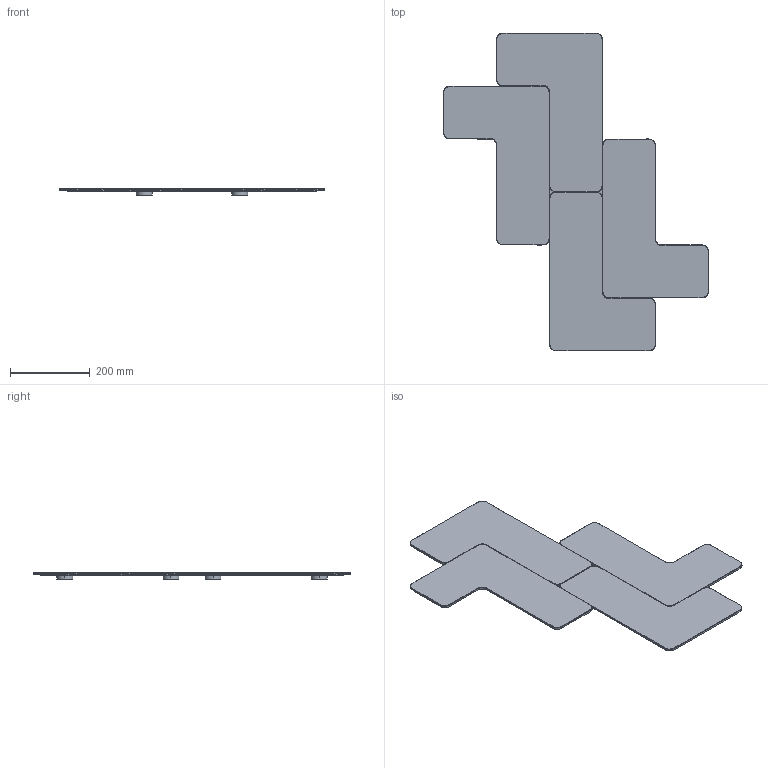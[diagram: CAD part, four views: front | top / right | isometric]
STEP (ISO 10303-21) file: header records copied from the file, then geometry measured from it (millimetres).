
FILE_DESCRIPTION(/* description */ (''),/* implementation_level */ '2;1');
FILE_NAME(/* name */ 'T80 - Tetris mod.C',/* time_stamp */ '2010-12-09T16:45:30+01:00',/* author */ (''),/* organization */ (''),/* preprocessor_version */ 'ST-DEVELOPER v10',/* originating_system */ '',/* authorisation */ '');
FILE_SCHEMA (('CONFIG_CONTROL_DESIGN'));
Length unit declared in the file: centimetre
Products named in the file (1): 1
Bounding box: 665 x 798 x 16.5 mm (x, y, z)
Volume: 1854223.9 mm3; surface area: 1055356.7 mm2
Topology: 9 solids, 9 shells, 44 faces, 70 edges, 44 vertices
Faces by surface type: bspline 26, plane 18
Entity records: 2154 total; most frequent: CARTESIAN_POINT 1556, ORIENTED_EDGE 140, EDGE_CURVE 70, ADVANCED_FACE 44, FACE_OUTER_BOUND 44, EDGE_LOOP 44, VERTEX_POINT 44, B_SPLINE_CURVE_WITH_KNOTS 42
